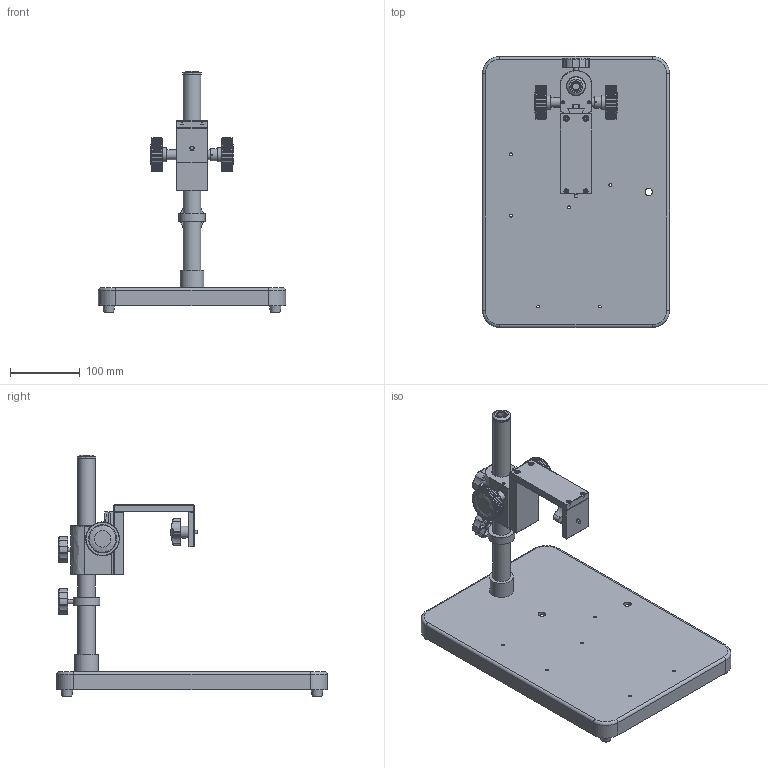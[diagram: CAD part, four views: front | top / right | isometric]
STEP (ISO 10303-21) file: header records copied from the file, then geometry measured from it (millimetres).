
FILE_DESCRIPTION(('STEP AP214'),'1');
FILE_NAME('GR-STD1-115.stp','2024-10-15T05:41:21',(' '),(' '),'Spatial InterOp 3D',' ',' ');
FILE_SCHEMA(('AUTOMOTIVE_DESIGN { 1 0 10303 214 1 1 1 1 }'));
Length unit declared in the file: metre
Products named in the file (5): GR-STD1-115; Component1; Component2; Component3; Component4
Assembly tree (4 placements, depth 2):
  GR-STD1-115
    Component1
    Component2
    Component3
    Component4
Bounding box: 268 x 388 x 345.9 mm (x, y, z)
Volume: 964298.8 mm3; surface area: 443132.9 mm2
Topology: 6 solids, 15 shells, 2293 faces, 5615 edges, 3345 vertices
Faces by surface type: plane 1427, cylinder 613, bspline 141, torus 69, cone 40, sphere 3
Full cylindrical faces by diameter (mm): 1.5 x4, 3.9 x2, 4 x14, 4.25 x1, 5 x2, 5.1 x2, 5.6 x2, 5.8 x1, 6 x2, 6.4 x2, 6.5 x5, 6.9 x3, 7 x2, 7.3 x4, 8.5 x2, 9.8 x3, 9.9 x2, 10 x3, 10.5 x3, 11.7 x3, 12.8 x1, 14 x2, 14.9 x2, 15.2 x1, 17.4 x1, 17.6 x1, 18 x2, 20.2 x2, 21 x3, 25 x3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
Entity records: 160209 total; most frequent: CARTESIAN_POINT 62304, DIRECTION 10963, ORIENTED_EDGE 10708, STYLED_ITEM 7653, PRESENTATION_STYLE_ASSIGNMENT 7653, COLOUR_RGB 7653, EDGE_CURVE 5354, CURVE_STYLE 5354
